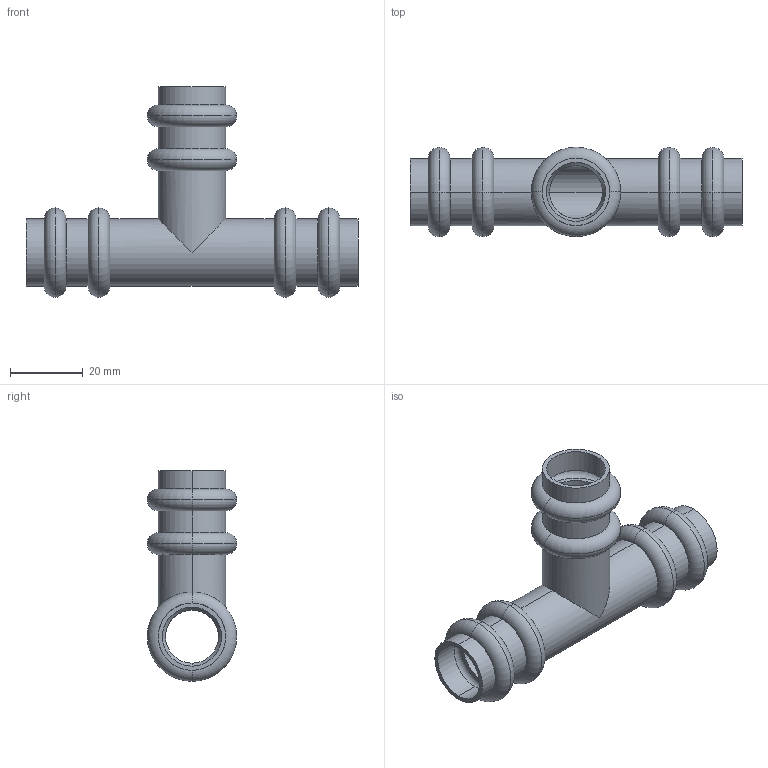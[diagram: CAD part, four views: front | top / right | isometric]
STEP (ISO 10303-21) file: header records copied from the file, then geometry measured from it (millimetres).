
FILE_DESCRIPTION(('starvars output'),'1');
FILE_NAME('cv20240422104954000011826.stp','10:49:57 2024/04/22',('Thomas Industrial Network Germany GmbH'),(' '),'Spatial InterOp 3D',' ',' ');
FILE_SCHEMA(('AUTOMOTIVE_DESIGN { 1 0 10303 214 3 1 1 }'));
Length unit declared in the file: millimetre
Products named in the file (1): 1
Bounding box: 91 x 24.5 x 57.75 mm (x, y, z)
Volume: 11662.4 mm3; surface area: 17461.3 mm2
Topology: 1 solids, 1 shells, 119 faces, 246 edges, 152 vertices
Faces by surface type: torus 48, cylinder 38, plane 27, cone 6
Entity records: 4216 total; most frequent: DIRECTION 686, CARTESIAN_POINT 518, ORIENTED_EDGE 492, AXIS2_PLACEMENT_3D 320, EDGE_CURVE 246, CIRCLE 192, VERTEX_POINT 152, EDGE_LOOP 146
